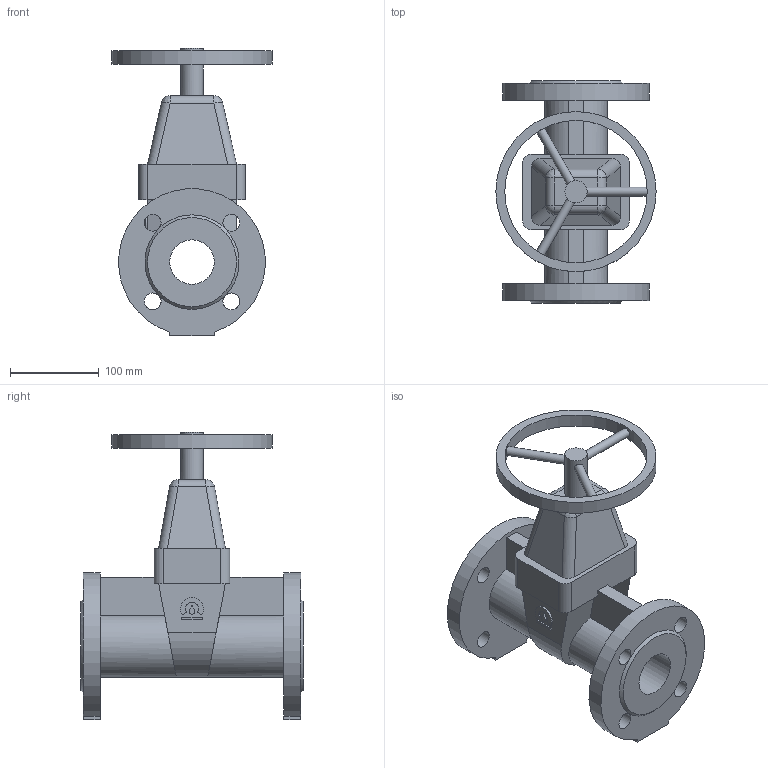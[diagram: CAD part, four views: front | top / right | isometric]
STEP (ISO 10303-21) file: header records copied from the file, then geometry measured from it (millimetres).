
FILE_DESCRIPTION(('STEP AP203'), '1');
FILE_NAME('Çàäâèæêà 47GV DN50 PN10_PN16_L250_W180 ñ ìàõîâèêîì', '', ('UNSPECIFIED'), ('UNSPECIFIED'), 'ASCON STEP Converter 1.6', 'ASCON Math Kernel', '');
FILE_SCHEMA(('CONFIG_CONTROL_DESIGN'));
Length unit declared in the file: millimetre
Bounding box: 180 x 250 x 322.5 mm (x, y, z)
Volume: 2480184.5 mm3; surface area: 288816.5 mm2
Topology: 1 solids, 1 shells, 94 faces, 249 edges, 156 vertices
Faces by surface type: plane 49, cylinder 39, bspline 4, cone 2
Full cylindrical faces by diameter (mm): 10 x3, 19 x8, 25 x1, 50 x1, 160 x1, 180 x1
Entity records: 4496 total; most frequent: CARTESIAN_POINT 1507, DIRECTION 444, ORIENTED_EDGE 424, EDGE_CURVE 212, AXIS2_PLACEMENT_3D 159, VERTEX_POINT 148, EDGE_LOOP 146, LINE 126
